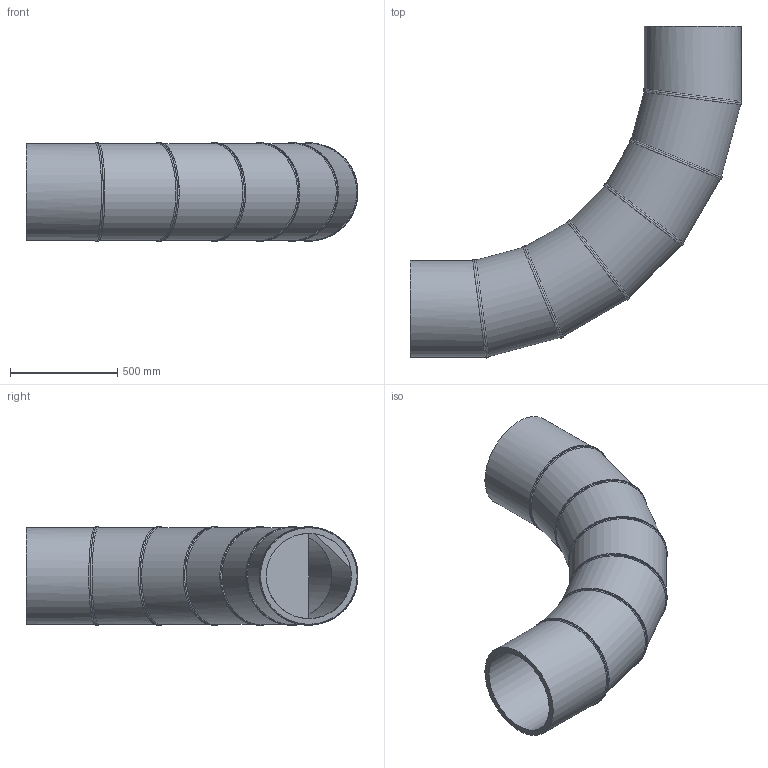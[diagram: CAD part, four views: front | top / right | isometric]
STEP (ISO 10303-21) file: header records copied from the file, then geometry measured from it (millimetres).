
FILE_DESCRIPTION(/* description */ ('Unknown'),/* implementation_level */ '2;1');
FILE_NAME(/* name */ 'Curva 90° a settore DE450 SDR17',/* time_stamp */ '2022-07-27T09:42:02+02:00',/* author */ ('Unknown'),/* organization */ ('Unknown'),/* preprocessor_version */ 'ST-DEVELOPER v18.102',/* originating_system */ 'Solid Edge',/* authorisation */ 'Unknown');
FILE_SCHEMA (('AUTOMOTIVE_DESIGN {1 0 10303 214 3 1 1}'));
Length unit declared in the file: millimetre
Products named in the file (3): Curva 90° a settore DE450 SDR17; Tubo x Gomito 90° DE450 SDR17 - 2; Tubo x Gomito 90° DE450 SDR17 - 1
Assembly tree (7 placements, depth 2):
  Curva 90° a settore DE450 SDR17
    Tubo x Gomito 90° DE450 SDR17 - 2  x5
    Tubo x Gomito 90° DE450 SDR17 - 1  x2
Bounding box: 1545.47 x 1545.47 x 457.99 mm (x, y, z)
Volume: 76975612.2 mm3; surface area: 6313918.2 mm2
Topology: 7 solids, 7 shells, 64 faces, 143 edges, 93 vertices
Faces by surface type: cylinder 38, plane 14, bspline 12
Full cylindrical faces by diameter (mm): 396.6 x7, 450 x7
Entity records: 2438 total; most frequent: CARTESIAN_POINT 2015, DIRECTION 78, ORIENTED_EDGE 52, AXIS2_PLACEMENT_3D 39, EDGE_LOOP 28, FACE_BOUND 28, EDGE_CURVE 26, VERTEX_POINT 20
